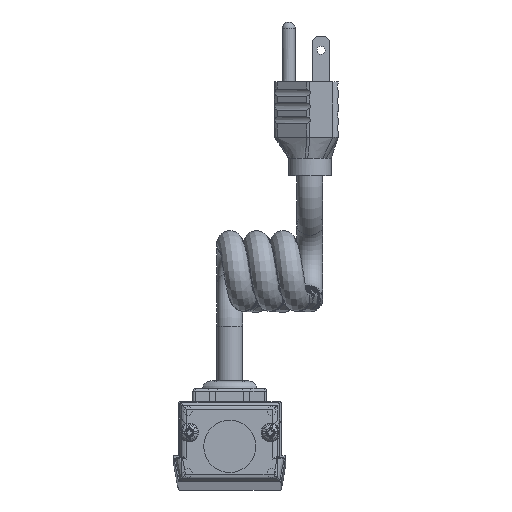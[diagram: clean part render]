
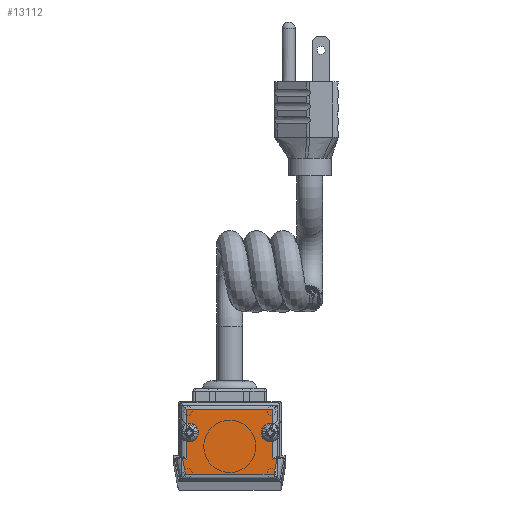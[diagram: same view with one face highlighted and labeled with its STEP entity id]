
A CAD part, top view. The second image highlights one B-rep face of the part: STEP entity #13112.
In plain terms, the highlighted planar face has unit normal (0, 0, 1).
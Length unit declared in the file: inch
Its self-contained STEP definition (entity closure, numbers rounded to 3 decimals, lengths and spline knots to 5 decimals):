
#1079=CIRCLE('',#14153,1.5875);
#1081=CIRCLE('',#14156,1.5875);
#1082=CIRCLE('',#14157,1.5875);
#1702=FACE_OUTER_BOUND('',#2452,.T.);
#2452=EDGE_LOOP('',(#9420,#9421,#9422,#9423,#9424,#9425,#9426,#9427,#9428,
#9429,#9430,#9431,#9432));
#3385=LINE('',#19079,#4562);
#3386=LINE('',#19081,#4563);
#3387=LINE('',#19083,#4564);
#3388=LINE('',#19085,#4565);
#3389=LINE('',#19087,#4566);
#3390=LINE('',#19089,#4567);
#3391=LINE('',#19090,#4568);
#3392=LINE('',#19092,#4569);
#3393=LINE('',#19094,#4570);
#3394=LINE('',#19095,#4571);
#4562=VECTOR('',#15715,10.);
#4563=VECTOR('',#15716,10.);
#4564=VECTOR('',#15717,10.);
#4565=VECTOR('',#15718,10.);
#4566=VECTOR('',#15719,10.);
#4567=VECTOR('',#15720,10.);
#4568=VECTOR('',#15721,10.);
#4569=VECTOR('',#15722,10.);
#4570=VECTOR('',#15723,10.);
#4571=VECTOR('',#15724,10.);
#5711=VERTEX_POINT('',#19035);
#5712=VERTEX_POINT('',#19044);
#5714=VERTEX_POINT('',#19057);
#5715=VERTEX_POINT('',#19059);
#5716=VERTEX_POINT('',#19061);
#5717=VERTEX_POINT('',#19078);
#5718=VERTEX_POINT('',#19080);
#5719=VERTEX_POINT('',#19082);
#5720=VERTEX_POINT('',#19084);
#5721=VERTEX_POINT('',#19086);
#5722=VERTEX_POINT('',#19088);
#5723=VERTEX_POINT('',#19091);
#5724=VERTEX_POINT('',#19093);
#7118=EDGE_CURVE('',#5712,#5711,#1079,.T.);
#7122=EDGE_CURVE('',#5715,#5714,#1081,.T.);
#7124=EDGE_CURVE('',#5714,#5716,#1082,.T.);
#7125=EDGE_CURVE('',#5717,#5711,#3385,.T.);
#7126=EDGE_CURVE('',#5718,#5717,#3386,.T.);
#7127=EDGE_CURVE('',#5719,#5718,#3387,.T.);
#7128=EDGE_CURVE('',#5720,#5719,#3388,.T.);
#7129=EDGE_CURVE('',#5721,#5720,#3389,.T.);
#7130=EDGE_CURVE('',#5722,#5721,#3390,.T.);
#7131=EDGE_CURVE('',#5715,#5722,#3391,.T.);
#7132=EDGE_CURVE('',#5723,#5716,#3392,.T.);
#7133=EDGE_CURVE('',#5724,#5723,#3393,.T.);
#7134=EDGE_CURVE('',#5712,#5724,#3394,.T.);
#9420=ORIENTED_EDGE('',*,*,#7118,.T.);
#9421=ORIENTED_EDGE('',*,*,#7125,.F.);
#9422=ORIENTED_EDGE('',*,*,#7126,.F.);
#9423=ORIENTED_EDGE('',*,*,#7127,.F.);
#9424=ORIENTED_EDGE('',*,*,#7128,.F.);
#9425=ORIENTED_EDGE('',*,*,#7129,.F.);
#9426=ORIENTED_EDGE('',*,*,#7130,.F.);
#9427=ORIENTED_EDGE('',*,*,#7131,.F.);
#9428=ORIENTED_EDGE('',*,*,#7122,.T.);
#9429=ORIENTED_EDGE('',*,*,#7124,.T.);
#9430=ORIENTED_EDGE('',*,*,#7132,.F.);
#9431=ORIENTED_EDGE('',*,*,#7133,.F.);
#9432=ORIENTED_EDGE('',*,*,#7134,.F.);
#12694=PLANE('',#14158);
#13112=ADVANCED_FACE('',(#1702),#12694,.T.);
#14153=AXIS2_PLACEMENT_3D('',#19045,#15702,#15703);
#14156=AXIS2_PLACEMENT_3D('',#19060,#15709,#15710);
#14157=AXIS2_PLACEMENT_3D('',#19076,#15711,#15712);
#14158=AXIS2_PLACEMENT_3D('',#19077,#15713,#15714);
#15702=DIRECTION('center_axis',(0.,0.,-1.));
#15703=DIRECTION('ref_axis',(1.,0.,0.));
#15709=DIRECTION('center_axis',(0.,0.,-1.));
#15710=DIRECTION('ref_axis',(1.,0.,0.));
#15711=DIRECTION('center_axis',(0.,0.,-1.));
#15712=DIRECTION('ref_axis',(1.,0.,0.));
#15713=DIRECTION('center_axis',(0.,0.,1.));
#15714=DIRECTION('ref_axis',(1.,0.,0.));
#15715=DIRECTION('',(0.,1.,0.));
#15716=DIRECTION('',(0.996,-0.087,0.));
#15717=DIRECTION('',(-0.191,0.982,0.));
#15718=DIRECTION('',(-1.,0.,0.));
#15719=DIRECTION('',(-0.191,-0.982,0.));
#15720=DIRECTION('',(0.996,0.087,0.));
#15721=DIRECTION('',(0.,-1.,0.));
#15722=DIRECTION('',(0.,-1.,0.));
#15723=DIRECTION('',(1.,0.,0.));
#15724=DIRECTION('',(0.,1.,0.));
#19035=CARTESIAN_POINT('',(-15.7226,16.40547,2.54));
#19044=CARTESIAN_POINT('',(-15.7226,19.05293,2.54));
#19045=CARTESIAN_POINT('Origin',(-14.8463,17.7292,2.54));
#19057=CARTESIAN_POINT('',(13.2588,17.7292,2.54));
#19059=CARTESIAN_POINT('',(15.7226,16.40547,2.54));
#19060=CARTESIAN_POINT('Origin',(14.8463,17.7292,2.54));
#19061=CARTESIAN_POINT('',(15.7226,19.05293,2.54));
#19076=CARTESIAN_POINT('Origin',(14.8463,17.7292,2.54));
#19077=CARTESIAN_POINT('Origin',(0.,14.10876,
2.54));
#19078=CARTESIAN_POINT('',(-15.7226,8.06566,2.54));
#19079=CARTESIAN_POINT('',(-15.7226,11.38955,2.54));
#19080=CARTESIAN_POINT('',(-17.26917,8.20097,2.54));
#19081=CARTESIAN_POINT('',(-10.32721,7.59363,2.54));
#19082=CARTESIAN_POINT('',(-16.16879,2.54,2.54));
#19083=CARTESIAN_POINT('',(-16.75812,5.57187,2.54));
#19084=CARTESIAN_POINT('',(16.16879,2.54,2.54));
#19085=CARTESIAN_POINT('',(9.1313,2.54,2.54));
#19086=CARTESIAN_POINT('',(17.26917,8.20097,2.54));
#19087=CARTESIAN_POINT('',(17.61537,9.98204,2.54));
#19088=CARTESIAN_POINT('',(15.7226,8.06566,2.54));
#19089=CARTESIAN_POINT('',(9.46996,7.51863,2.54));
#19090=CARTESIAN_POINT('',(15.7226,21.34188,2.54));
#19091=CARTESIAN_POINT('',(15.7226,26.035,2.54));
#19092=CARTESIAN_POINT('',(15.7226,21.34188,2.54));
#19093=CARTESIAN_POINT('',(-15.7226,26.035,2.54));
#19094=CARTESIAN_POINT('',(-9.1313,26.035,2.54));
#19095=CARTESIAN_POINT('',(-15.7226,11.38955,2.54));
